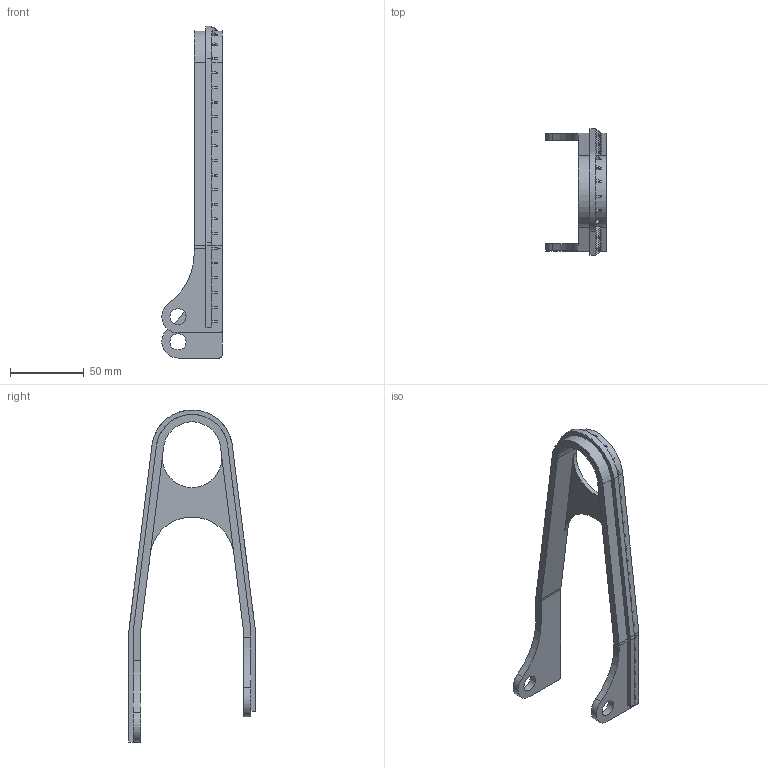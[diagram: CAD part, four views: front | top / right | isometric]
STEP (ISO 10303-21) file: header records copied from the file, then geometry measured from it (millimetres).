
FILE_DESCRIPTION(/* description */ (''),/* implementation_level */ '2;1');
FILE_NAME(/* name */ 'chain-slider.step',/* time_stamp */ '2026-06-04T16:00:26-07:00',/* author */ (''),/* organization */ (''),/* preprocessor_version */ 'ST-DEVELOPER v20.1',/* originating_system */ 'Autodesk Translation Framework v15.8.0.0',/* authorisation */ '');
FILE_SCHEMA (('AUTOMOTIVE_DESIGN { 1 0 10303 214 3 1 1 }'));
Length unit declared in the file: millimetre
Products named in the file (1): chain-slider
Bounding box: 40.98 x 86.11 x 225.57 mm (x, y, z)
Volume: 57801.6 mm3; surface area: 31226.6 mm2
Topology: 1 solids, 1 shells, 242 faces, 629 edges, 382 vertices
Faces by surface type: plane 220, cylinder 22
Full cylindrical faces by diameter (mm): 11 x2
Entity records: 7226 total; most frequent: ORIENTED_EDGE 1258, CARTESIAN_POINT 1254, DIRECTION 1180, EDGE_CURVE 629, LINE 564, VECTOR 564, VERTEX_POINT 382, AXIS2_PLACEMENT_3D 308
